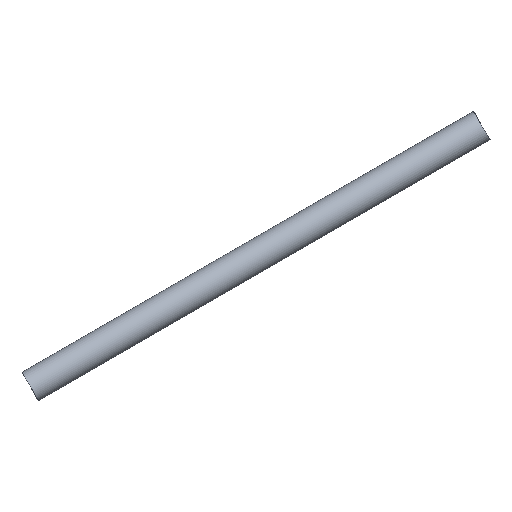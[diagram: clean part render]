
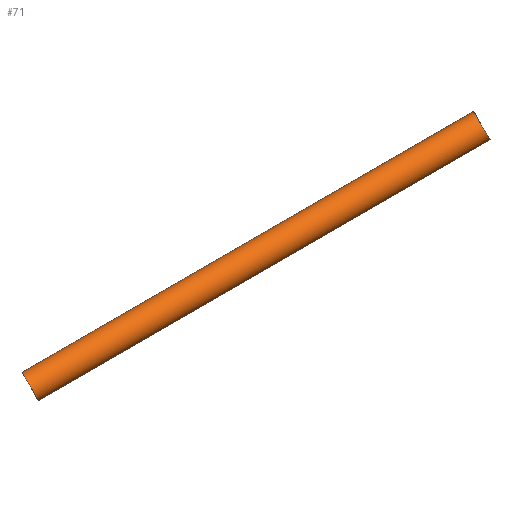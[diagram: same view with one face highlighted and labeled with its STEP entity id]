
A CAD part, left-side view. The second image highlights one B-rep face of the part: STEP entity #71.
In plain terms, the highlighted cylindrical face has radius 5 mm (diameter 10 mm), a full revolution.
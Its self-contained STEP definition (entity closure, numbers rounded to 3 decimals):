
#14=FACE_BOUND('',#26,.T.);
#15=CYLINDRICAL_SURFACE('',#94,5.);
#20=FACE_OUTER_BOUND('',#25,.T.);
#25=EDGE_LOOP('',(#53,#54));
#26=EDGE_LOOP('',(#55,#56));
#27=ELLIPSE('',#87,7.071,5.);
#28=ELLIPSE('',#89,7.071,5.);
#29=ELLIPSE('',#91,7.071,5.);
#30=ELLIPSE('',#93,7.071,5.);
#35=VERTEX_POINT('',#119);
#36=VERTEX_POINT('',#120);
#37=VERTEX_POINT('',#124);
#38=VERTEX_POINT('',#125);
#40=EDGE_CURVE('',#36,#35,#27,.T.);
#42=EDGE_CURVE('',#38,#37,#28,.T.);
#43=EDGE_CURVE('',#35,#36,#29,.T.);
#44=EDGE_CURVE('',#37,#38,#30,.T.);
#53=ORIENTED_EDGE('',*,*,#43,.T.);
#54=ORIENTED_EDGE('',*,*,#40,.T.);
#55=ORIENTED_EDGE('',*,*,#42,.T.);
#56=ORIENTED_EDGE('',*,*,#44,.T.);
#71=ADVANCED_FACE('',(#20,#14),#15,.T.);
#87=AXIS2_PLACEMENT_3D('',#122,#100,#101);
#89=AXIS2_PLACEMENT_3D('',#127,#105,#106);
#91=AXIS2_PLACEMENT_3D('',#129,#109,#110);
#93=AXIS2_PLACEMENT_3D('',#131,#113,#114);
#94=AXIS2_PLACEMENT_3D('',#132,#115,#116);
#100=DIRECTION('center_axis',(0.,0.866,-0.5));
#101=DIRECTION('ref_axis',(-1.,0.,0.));
#105=DIRECTION('center_axis',(0.,-0.866,0.5));
#106=DIRECTION('ref_axis',(-1.,0.,0.));
#109=DIRECTION('center_axis',(0.,0.866,-0.5));
#110=DIRECTION('ref_axis',(-1.,0.,0.));
#113=DIRECTION('center_axis',(0.,-0.866,0.5));
#114=DIRECTION('ref_axis',(-1.,0.,0.));
#115=DIRECTION('center_axis',(-0.707,0.612,-0.354));
#116=DIRECTION('ref_axis',(-0.707,-0.612,0.354));
#119=CARTESIAN_POINT('',(3928.231,13.856,-8.));
#120=CARTESIAN_POINT('',(3914.088,13.856,-8.));
#122=CARTESIAN_POINT('Origin',(3921.16,13.856,-8.));
#124=CARTESIAN_POINT('',(3770.231,150.688,-87.));
#125=CARTESIAN_POINT('',(3756.088,150.688,-87.));
#127=CARTESIAN_POINT('Origin',(3763.16,150.688,-87.));
#129=CARTESIAN_POINT('Origin',(3921.16,13.856,-8.));
#131=CARTESIAN_POINT('Origin',(3763.16,150.688,-87.));
#132=CARTESIAN_POINT('Origin',(3842.16,82.272,-47.5));
